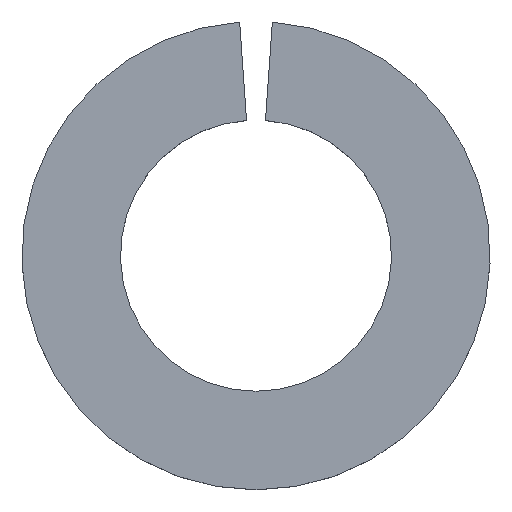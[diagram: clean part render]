
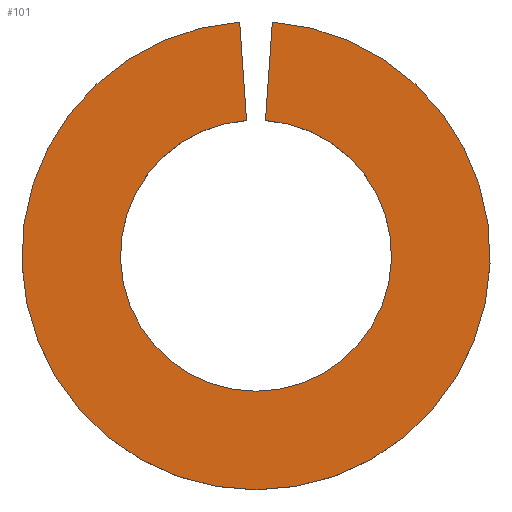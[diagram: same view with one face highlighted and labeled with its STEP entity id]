
A CAD part, top view. The second image highlights one B-rep face of the part: STEP entity #101.
In plain terms, the highlighted planar face has unit normal (0, 0, 1).
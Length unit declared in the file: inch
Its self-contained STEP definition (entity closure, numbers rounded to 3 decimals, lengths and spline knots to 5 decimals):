
#16=CIRCLE('',#120,0.29688);
#18=CIRCLE('',#124,0.17188);
#25=FACE_OUTER_BOUND('',#31,.T.);
#31=EDGE_LOOP('',(#85,#86,#87,#88));
#35=LINE('',#165,#43);
#39=LINE('',#177,#47);
#43=VECTOR('',#133,0.3937);
#47=VECTOR('',#145,0.3937);
#51=VERTEX_POINT('',#162);
#52=VERTEX_POINT('',#164);
#54=VERTEX_POINT('',#170);
#56=VERTEX_POINT('',#176);
#59=EDGE_CURVE('',#52,#51,#35,.T.);
#62=EDGE_CURVE('',#54,#52,#16,.T.);
#65=EDGE_CURVE('',#56,#54,#39,.T.);
#68=EDGE_CURVE('',#51,#56,#18,.T.);
#85=ORIENTED_EDGE('',*,*,#68,.T.);
#86=ORIENTED_EDGE('',*,*,#65,.T.);
#87=ORIENTED_EDGE('',*,*,#62,.T.);
#88=ORIENTED_EDGE('',*,*,#59,.T.);
#95=PLANE('',#125);
#101=ADVANCED_FACE('',(#25),#95,.T.);
#120=AXIS2_PLACEMENT_3D('',#171,#139,#140);
#124=AXIS2_PLACEMENT_3D('',#181,#151,#152);
#125=AXIS2_PLACEMENT_3D('',#182,#153,#154);
#133=DIRECTION('',(-0.07,-0.998,0.));
#139=DIRECTION('center_axis',(0.,0.,1.));
#140=DIRECTION('ref_axis',(1.,0.,0.));
#145=DIRECTION('',(-0.07,0.998,0.));
#151=DIRECTION('center_axis',(0.,0.,-1.));
#152=DIRECTION('ref_axis',(1.,0.,0.));
#153=DIRECTION('center_axis',(0.,0.,1.));
#154=DIRECTION('ref_axis',(1.,0.,0.));
#162=CARTESIAN_POINT('',(0.01199,0.17146,0.07813));
#164=CARTESIAN_POINT('',(0.02071,0.29615,0.07813));
#165=CARTESIAN_POINT('',(0.01199,0.17146,0.07813));
#170=CARTESIAN_POINT('',(-0.02071,0.29615,0.07813));
#171=CARTESIAN_POINT('Origin',(0.,0.,0.07813));
#176=CARTESIAN_POINT('',(-0.01199,0.17146,0.07813));
#177=CARTESIAN_POINT('',(-0.01199,0.17146,0.07813));
#181=CARTESIAN_POINT('Origin',(0.,0.,0.07813));
#182=CARTESIAN_POINT('Origin',(0.,-0.00036,0.07813));
